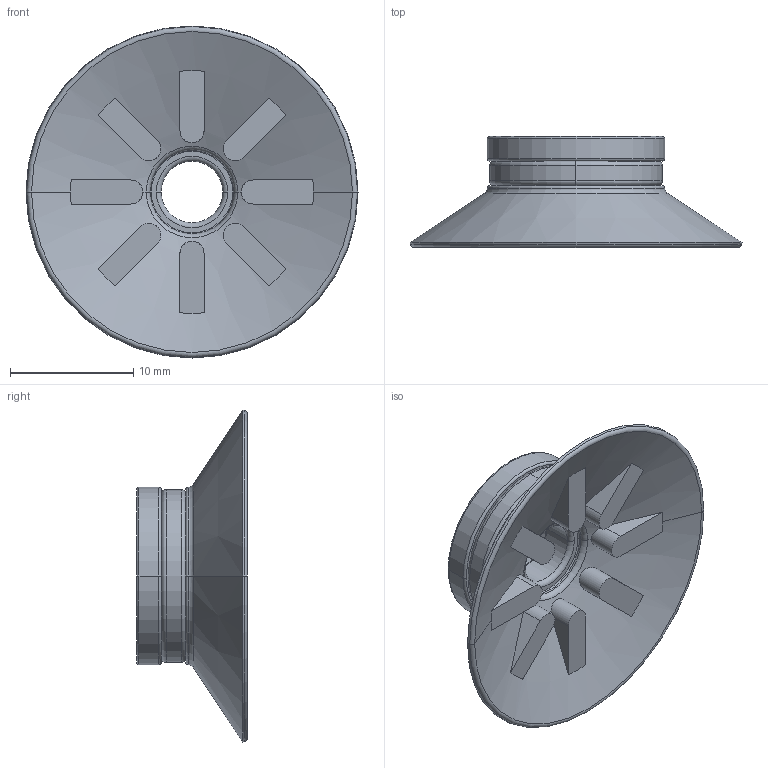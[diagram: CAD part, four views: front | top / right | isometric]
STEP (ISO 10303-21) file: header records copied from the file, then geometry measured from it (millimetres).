
FILE_DESCRIPTION (( 'STEP AP203' ), '1' );
FILE_NAME ('90_25--A.STEP', '2017-11-10T08:53:29', ( '' ), ( '' ), 'SwSTEP 2.0', 'SolidWorks 2016', '' );
FILE_SCHEMA (( 'CONFIG_CONTROL_DESIGN' ));
Length unit declared in the file: millimetre
Products named in the file (1): 90_25--A
Bounding box: 26.94 x 9 x 26.94 mm (x, y, z)
Volume: 1409.1 mm3; surface area: 2067 mm2
Topology: 2 solids, 2 shells, 94 faces, 204 edges, 123 vertices
Faces by surface type: torus 32, plane 31, cylinder 25, cone 6
Entity records: 2782 total; most frequent: CARTESIAN_POINT 602, DIRECTION 485, ORIENTED_EDGE 408, AXIS2_PLACEMENT_3D 214, EDGE_CURVE 204, VERTEX_POINT 123, CIRCLE 119, EDGE_LOOP 107
